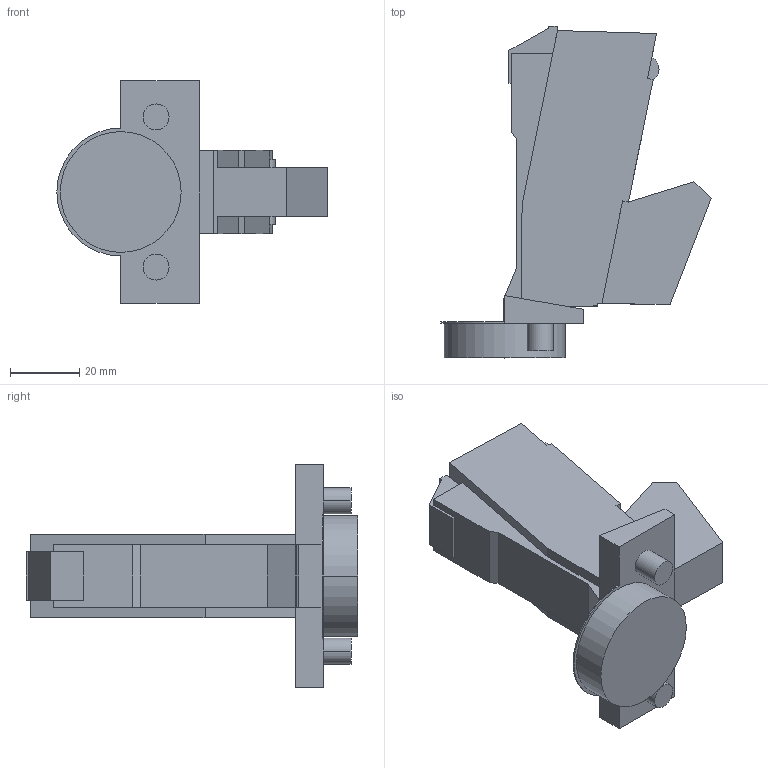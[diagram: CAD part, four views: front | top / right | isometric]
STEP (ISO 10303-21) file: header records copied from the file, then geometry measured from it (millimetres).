
FILE_DESCRIPTION (( 'STEP AP214' ), '1' );
FILE_NAME ('Scharnier T Impresso 160° GB_BB, K00.step', '2010-12-13T10:13:10', ( 'grass' ), ( '' ), 'SwSTEP 2.0', 'SolidWorks 2010', '' );
FILE_SCHEMA (( 'AUTOMOTIVE_DESIGN' ));
Length unit declared in the file: millimetre
Products named in the file (1): Scharnier T Impresso 160° GB_BB, K00
Bounding box: 78.27 x 96.09 x 64.5 mm (x, y, z)
Volume: 91999.2 mm3; surface area: 18919 mm2
Topology: 1 solids, 3 shells, 71 faces, 179 edges, 118 vertices
Faces by surface type: plane 58, cylinder 13
Entity records: 2137 total; most frequent: CARTESIAN_POINT 369, ORIENTED_EDGE 358, DIRECTION 349, EDGE_CURVE 179, LINE 153, VECTOR 153, VERTEX_POINT 118, AXIS2_PLACEMENT_3D 98
